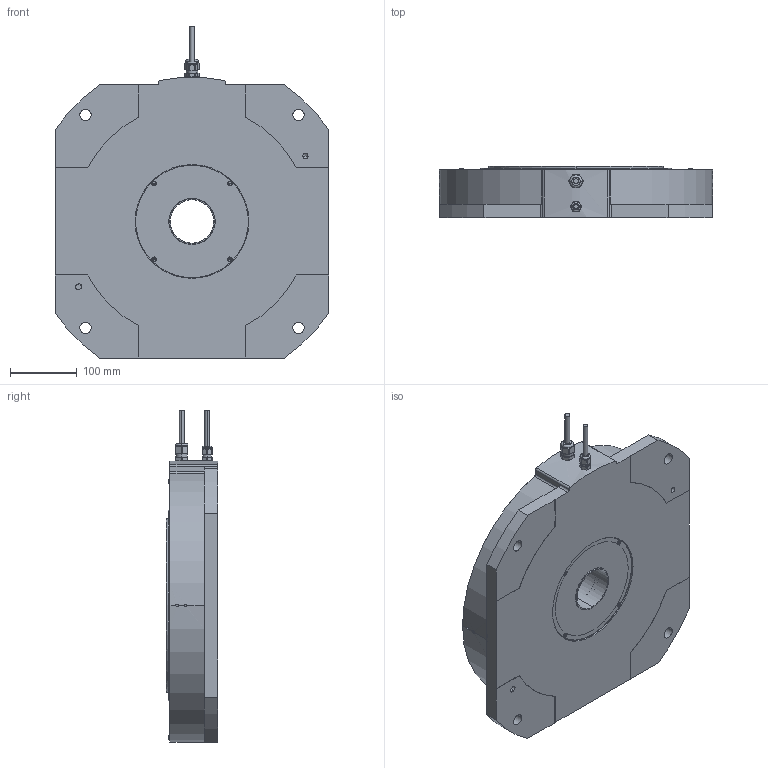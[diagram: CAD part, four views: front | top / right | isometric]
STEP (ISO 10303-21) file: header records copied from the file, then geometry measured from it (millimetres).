
FILE_DESCRIPTION (( 'STEP AP214' ), '1' );
FILE_NAME ('BZA01920.step', '2024-03-27T07:00:24', ( '' ), ( '' ), 'SwSTEP 2.0', 'SolidWorks 2023', '' );
FILE_SCHEMA (( 'AUTOMOTIVE_DESIGN' ));
Length unit declared in the file: millimetre
Products named in the file (1): BZA01920
Bounding box: 408 x 77 x 496 mm (x, y, z)
Volume: 3593606.2 mm3; surface area: 844471.1 mm2
Topology: 27 solids, 27 shells, 1038 faces, 2600 edges, 1631 vertices
Faces by surface type: cylinder 544, plane 251, cone 159, torus 62, sphere 22
Entity records: 33148 total; most frequent: CARTESIAN_POINT 7916, DIRECTION 5418, ORIENTED_EDGE 5052, EDGE_CURVE 2526, AXIS2_PLACEMENT_3D 2194, VERTEX_POINT 1631, EDGE_LOOP 1207, CIRCLE 1155
